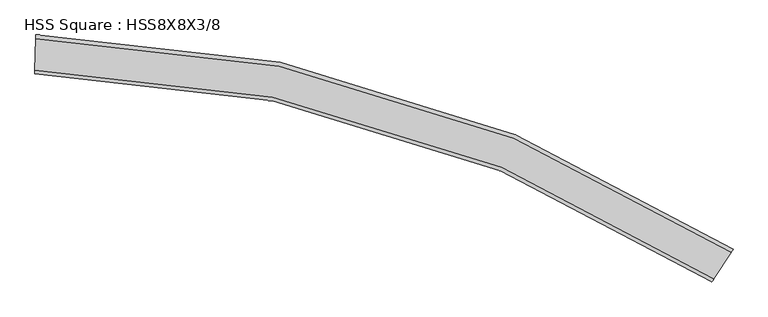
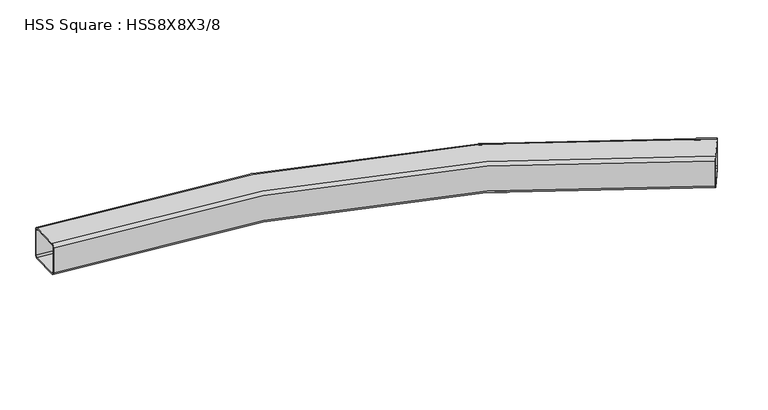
"""IFC4 building model written with IfcOpenShell, lengths in millimetres: beam geometry, HSS Square : HSS8X8X3/8."""

from ifc_helpers import new_model, si_unit, point, frame, origin, place, context, project, spatial, polyline, circle_curve, ellipse_curve, trimmed, source, transform, mapped, element, save
from ifc_brep_helpers import plane_surface, cylinder_surface, revolved_surface, advanced_brep


def hss_square_hss8x8x3_8_2c6f5ad9(model_context):
    return source(origin(), model_context, "Body", "AdvancedBrep", [
        advanced_brep(
        [(3770.5820038, -1017.4388055, 82.55), (3760.1899541, -1033.4046379, 101.6), (3670.1255241, -1171.7751855, 101.6), (3659.7334745, -1187.7410179, 82.55), (3659.7334745, -1187.7410179, -82.55), (3670.1255241, -1171.7751855, -101.6), (3760.1899541, -1033.4046379, -101.6), (3770.5820038, -1017.4388055, -82.55), (3670.1255241, -1171.7751855, 92.075), (3760.1899541, -1033.4046379, 92.075), (3765.385979, -1025.4217217, 82.55), (3765.385979, -1025.4217217, -82.55), (3760.1899541, -1033.4046379, -92.075), (3670.1255241, -1171.7751855, -92.075), (3664.9294993, -1179.7581017, -82.55), (3664.9294993, -1179.7581017, 82.55), (133.734971, 100.3061067, 82.55), (133.734971, 100.3061067, -82.55), (133.3663859, 81.2596728, -101.6), (130.1719814, -83.8094212, -101.6), (129.8033963, -102.8558551, -82.55), (129.8033963, -102.8558551, 82.55), (130.1719814, -83.8094212, 101.6), (133.3663859, 81.2596728, 101.6), (130.1719814, -83.8094212, 92.075), (129.9876888, -93.3326382, 82.55), (129.9876888, -93.3326382, -82.55), (130.1719814, -83.8094212, -92.075), (133.3663859, 81.2596728, -92.075), (133.5506784, 90.7828897, -82.55), (133.5506784, 90.7828897, 82.55), (133.3663859, 81.2596728, 92.075)],
        [
            (0, 1, circle_curve(frame((3760.1899541, -1033.4046379, 82.55), z_axis=(0.8381014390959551, -0.5455144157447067, 0.0), x_axis=(-0.5455144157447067, -0.8381014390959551, 0.0)), 19.05)),
            (1, 2),
            (2, 3, circle_curve(frame((3670.1255241, -1171.7751855, 82.55), z_axis=(0.8381014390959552, -0.5455144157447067, 0.0), x_axis=(-0.5455144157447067, -0.8381014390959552, 0.0)), 19.05)),
            (3, 4),
            (4, 5, circle_curve(frame((3670.1255241, -1171.7751855, -82.55), z_axis=(0.8381014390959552, -0.5455144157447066, 0.0), x_axis=(-0.5455144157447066, -0.8381014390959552, 0.0)), 19.05)),
            (5, 6),
            (6, 7, circle_curve(frame((3760.1899541, -1033.4046379, -82.55), z_axis=(0.8381014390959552, -0.5455144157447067, 0.0), x_axis=(-0.5455144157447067, -0.8381014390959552, 0.0)), 19.05)),
            (7, 0),
            (8, 9),
            (9, 10, circle_curve(frame((3760.1899541, -1033.4046379, 82.55), z_axis=(-0.8381014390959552, 0.5455144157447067, 0.0), x_axis=(-0.5455144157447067, -0.8381014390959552, 0.0)), 9.525)),
            (10, 11),
            (11, 12, circle_curve(frame((3760.1899541, -1033.4046379, -82.55), z_axis=(-0.8381014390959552, 0.5455144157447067, 0.0), x_axis=(-0.5455144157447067, -0.8381014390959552, 0.0)), 9.525)),
            (12, 13),
            (13, 14, circle_curve(frame((3670.1255241, -1171.7751855, -82.55), z_axis=(-0.8381014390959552, 0.5455144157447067, 0.0), x_axis=(-0.5455144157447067, -0.8381014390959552, 0.0)), 9.525)),
            (14, 15),
            (15, 8, circle_curve(frame((3670.1255241, -1171.7751855, 82.55), z_axis=(-0.8381014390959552, 0.5455144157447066, 0.0), x_axis=(-0.5455144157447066, -0.8381014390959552, 0.0)), 9.525)),
            (16, 17),
            (17, 18, circle_curve(frame((133.3663859, 81.2596728, -82.55), z_axis=(-0.9998128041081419, 0.019348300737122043, 0.0), x_axis=(-0.019348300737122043, -0.9998128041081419, 0.0)), 19.05)),
            (18, 19),
            (19, 20, circle_curve(frame((130.1719814, -83.8094212, -82.55), z_axis=(-0.9998128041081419, 0.019348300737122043, 0.0), x_axis=(-0.019348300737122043, -0.9998128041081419, 0.0)), 19.05)),
            (20, 21),
            (21, 22, circle_curve(frame((130.1719814, -83.8094212, 82.55), z_axis=(-0.9998128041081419, 0.01934830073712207, 0.0), x_axis=(-0.01934830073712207, -0.9998128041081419, 0.0)), 19.05)),
            (22, 23),
            (23, 16, circle_curve(frame((133.3663859, 81.2596728, 82.55), z_axis=(-0.9998128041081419, 0.019348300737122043, 0.0), x_axis=(-0.019348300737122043, -0.9998128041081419, 0.0)), 19.05)),
            (24, 25, circle_curve(frame((130.1719814, -83.8094212, 82.55), z_axis=(0.9998128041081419, -0.01934830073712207, 0.0), x_axis=(-0.01934830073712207, -0.9998128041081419, 0.0)), 9.525)),
            (25, 26),
            (26, 27, circle_curve(frame((130.1719814, -83.8094212, -82.55), z_axis=(0.9998128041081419, -0.0193483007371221, 0.0), x_axis=(-0.0193483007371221, -0.9998128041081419, 0.0)), 9.525)),
            (27, 28),
            (28, 29, circle_curve(frame((133.3663859, 81.2596728, -82.55), z_axis=(0.9998128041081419, -0.019348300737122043, 0.0), x_axis=(-0.019348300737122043, -0.9998128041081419, 0.0)), 9.525)),
            (29, 30),
            (30, 31, circle_curve(frame((133.3663859, 81.2596728, 82.55), z_axis=(0.9998128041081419, -0.0193483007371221, 0.0), x_axis=(-0.0193483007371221, -0.9998128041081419, 0.0)), 9.525)),
            (31, 24),
            (0, 16, circle_curve(frame((0.0, -6810.375, 82.55), z_axis=(0.0, 0.0, 1.0), x_axis=(-0.19044289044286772, 0.981698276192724, 0.0)), 6911.975)),
            (23, 1, circle_curve(frame((0.0, -6810.375, 101.6), z_axis=(0.0, 0.0, -1.0), x_axis=(-0.19044289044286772, 0.981698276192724, 0.0)), 6892.925)),
            (22, 2, circle_curve(frame((0.0, -6810.375, 101.6), z_axis=(0.0, 0.0, -1.0), x_axis=(-0.19044289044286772, 0.981698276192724, 0.0)), 6727.825)),
            (21, 3, circle_curve(frame((0.0, -6810.375, 82.55), z_axis=(0.0, 0.0, -1.0), x_axis=(-0.19044289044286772, 0.981698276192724, 0.0)), 6708.775)),
            (20, 4, circle_curve(frame((0.0, -6810.375, -82.55), z_axis=(0.0, 0.0, -1.0), x_axis=(-0.19044289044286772, 0.981698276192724, 0.0)), 6708.775)),
            (19, 5, circle_curve(frame((0.0, -6810.375, -101.6), z_axis=(0.0, 0.0, -1.0), x_axis=(-0.19044289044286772, 0.981698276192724, 0.0)), 6727.825)),
            (18, 6, circle_curve(frame((0.0, -6810.375, -101.6), z_axis=(0.0, 0.0, -1.0), x_axis=(-0.19044289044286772, 0.981698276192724, 0.0)), 6892.925)),
            (17, 7, circle_curve(frame((0.0, -6810.375, -82.55), z_axis=(0.0, 0.0, -1.0), x_axis=(-0.19044289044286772, 0.981698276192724, 0.0)), 6911.975)),
            (8, 24, circle_curve(frame((0.0, -6810.375, 92.075), z_axis=(0.0, 0.0, 1.0), x_axis=(-0.19044289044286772, 0.981698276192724, 0.0)), 6727.825)),
            (31, 9, circle_curve(frame((0.0, -6810.375, 92.075), z_axis=(0.0, 0.0, -1.0), x_axis=(-0.19044289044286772, 0.981698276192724, 0.0)), 6892.925)),
            (30, 10, circle_curve(frame((0.0, -6810.375, 82.55), z_axis=(0.0, 0.0, -1.0), x_axis=(-0.19044289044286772, 0.981698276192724, 0.0)), 6902.45)),
            (29, 11, circle_curve(frame((0.0, -6810.375, -82.55), z_axis=(0.0, 0.0, -1.0), x_axis=(-0.19044289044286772, 0.981698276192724, 0.0)), 6902.45)),
            (28, 12, circle_curve(frame((0.0, -6810.375, -92.075), z_axis=(0.0, 0.0, -1.0), x_axis=(-0.19044289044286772, 0.981698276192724, 0.0)), 6892.925)),
            (27, 13, circle_curve(frame((0.0, -6810.375, -92.075), z_axis=(0.0, 0.0, -1.0), x_axis=(-0.19044289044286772, 0.981698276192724, 0.0)), 6727.825)),
            (26, 14, circle_curve(frame((0.0, -6810.375, -82.55), z_axis=(0.0, 0.0, -1.0), x_axis=(-0.19044289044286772, 0.981698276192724, 0.0)), 6718.3)),
            (25, 15, circle_curve(frame((0.0, -6810.375, 82.55), z_axis=(0.0, 0.0, -1.0), x_axis=(-0.19044289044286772, 0.981698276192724, 0.0)), 6718.3)),
        ],
        [
            plane_surface(frame((3715.1577391, -1102.5899117, 0.0), z_axis=(0.8381014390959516, -0.5455144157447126, 0.0), x_axis=(0.0, 0.0, 1.0))),
            plane_surface(frame((131.7691836, -1.2748742, 0.0), z_axis=(-0.9998128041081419, 0.019348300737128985, 0.0), x_axis=(0.0, 0.0, 1.0))),
            revolved_surface(trimmed(ellipse_curve(frame((-1312.7085606, -43.6024096, 82.55), z_axis=(-0.9816982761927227, -0.19044289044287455, 0.0), x_axis=(0.19044289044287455, -0.9816982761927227, 0.0)), 19.05, 19.05), [point((-1312.7085606, -43.6024096, 101.6))], [point((-1316.3364977, -24.9010574, 82.55))], True, "CARTESIAN"), (0.0, -6810.375, 0.0), (0.0, 0.0, -1.0)),
            plane_surface(frame((0.0, -6810.375, 101.6), z_axis=(0.0, 0.0, 1.0), x_axis=(-0.19044289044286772, 0.981698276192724, 0.0))),
            revolved_surface(trimmed(ellipse_curve(frame((-1281.2664394, -205.680795, 82.55), z_axis=(-0.9816982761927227, -0.19044289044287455, 0.0), x_axis=(0.19044289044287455, -0.9816982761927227, 0.0)), 19.05, 19.05), [point((-1277.6385023, -224.3821471, 82.55))], [point((-1281.2664394, -205.680795, 101.6))], True, "CARTESIAN"), (0.0, -6810.375, 0.0), (0.0, 0.0, -1.0)),
            revolved_surface(polyline([(-1277.6385023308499, -224.38214713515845, -82.55), (-1277.6385023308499, -224.38214713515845, 82.55)]), (0.0, -6810.375, 0.0), (0.0, 0.0, -1.0)),
            revolved_surface(trimmed(ellipse_curve(frame((-1281.2664394, -205.680795, -82.55), z_axis=(-0.9816982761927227, -0.19044289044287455, 0.0), x_axis=(0.19044289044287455, -0.9816982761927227, 0.0)), 19.05, 19.05), [point((-1281.2664394, -205.680795, -101.6))], [point((-1277.6385023, -224.3821471, -82.55))], True, "CARTESIAN"), (0.0, -6810.375, 0.0), (0.0, 0.0, -1.0)),
            plane_surface(frame((0.0, -6810.375, -101.6), z_axis=(0.0, 0.0, -1.0), x_axis=(-0.19044289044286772, 0.981698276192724, 0.0))),
            revolved_surface(trimmed(ellipse_curve(frame((-1312.7085606, -43.6024096, -82.55), z_axis=(-0.9816982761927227, -0.19044289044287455, 0.0), x_axis=(0.19044289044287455, -0.9816982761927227, 0.0)), 19.05, 19.05), [point((-1316.3364977, -24.9010574, -82.55))], [point((-1312.7085606, -43.6024096, -101.6))], True, "CARTESIAN"), (0.0, -6810.375, 0.0), (0.0, 0.0, -1.0)),
            cylinder_surface(frame((0.0, -6810.375, 0.0), z_axis=(0.0, 0.0, -1.0), x_axis=(-0.19044289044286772, 0.981698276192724, 0.0)), 6911.975),
            plane_surface(frame((0.0, -6810.375, 92.075), z_axis=(0.0, 0.0, -1.0), x_axis=(-0.19044289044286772, 0.981698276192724, 0.0))),
            revolved_surface(trimmed(ellipse_curve(frame((-1312.7085606, -43.6024096, 82.55), z_axis=(0.9816982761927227, 0.19044289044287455, 0.0), x_axis=(0.19044289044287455, -0.9816982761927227, 0.0)), 9.525, 9.525), [point((-1314.5225291, -34.2517335, 82.55))], [point((-1312.7085606, -43.6024096, 92.075))], True, "CARTESIAN"), (0.0, -6810.375, 0.0), (0.0, 0.0, -1.0)),
            revolved_surface(polyline([(-1314.5225291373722, -34.25173349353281, -82.55), (-1314.5225291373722, -34.25173349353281, 82.55)]), (0.0, -6810.375, 0.0), (0.0, 0.0, -1.0)),
            revolved_surface(trimmed(ellipse_curve(frame((-1312.7085606, -43.6024096, -82.55), z_axis=(0.9816982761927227, 0.19044289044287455, 0.0), x_axis=(0.19044289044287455, -0.9816982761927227, 0.0)), 9.525, 9.525), [point((-1312.7085606, -43.6024096, -92.075))], [point((-1314.5225291, -34.2517335, -82.55))], True, "CARTESIAN"), (0.0, -6810.375, 0.0), (0.0, 0.0, -1.0)),
            plane_surface(frame((0.0, -6810.375, -92.075), z_axis=(0.0, 0.0, 1.0), x_axis=(-0.19044289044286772, 0.981698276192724, 0.0))),
            revolved_surface(trimmed(ellipse_curve(frame((-1281.2664394, -205.680795, -82.55), z_axis=(0.9816982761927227, 0.19044289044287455, 0.0), x_axis=(0.19044289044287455, -0.9816982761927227, 0.0)), 9.525, 9.525), [point((-1279.4524709, -215.0314711, -82.55))], [point((-1281.2664394, -205.680795, -92.075))], True, "CARTESIAN"), (0.0, -6810.375, 0.0), (0.0, 0.0, -1.0)),
            cylinder_surface(frame((0.0, -6810.375, 0.0), z_axis=(0.0, 0.0, -1.0), x_axis=(-0.19044289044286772, 0.981698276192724, 0.0)), 6718.3),
            revolved_surface(trimmed(ellipse_curve(frame((-1281.2664394, -205.680795, 82.55), z_axis=(0.9816982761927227, 0.19044289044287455, 0.0), x_axis=(0.19044289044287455, -0.9816982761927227, 0.0)), 9.525, 9.525), [point((-1281.2664394, -205.680795, 92.075))], [point((-1279.4524709, -215.0314711, 82.55))], True, "CARTESIAN"), (0.0, -6810.375, 0.0), (0.0, 0.0, -1.0)),
        ],
        [
            (0, [[1, 2, 3, 4, 5, 6, 7, 8], [9, 10, 11, 12, 13, 14, 15, 16]]),
            (1, [[17, 18, 19, 20, 21, 22, 23, 24], [25, 26, 27, 28, 29, 30, 31, 32]]),
            (2, [[-1, 33, -24, 34]]),
            (3, [[-2, -34, -23, 35]]),
            (4, [[-3, -35, -22, 36]]),
            (5, [[-4, -36, -21, 37]]),
            (6, [[-5, -37, -20, 38]]),
            (7, [[-6, -38, -19, 39]]),
            (8, [[-7, -39, -18, 40]]),
            (9, [[-8, -40, -17, -33]]),
            (10, [[-9, 41, -32, 42]]),
            (11, [[-10, -42, -31, 43]]),
            (12, [[-11, -43, -30, 44]]),
            (13, [[-12, -44, -29, 45]]),
            (14, [[-13, -45, -28, 46]]),
            (15, [[-14, -46, -27, 47]]),
            (16, [[-15, -47, -26, 48]]),
            (17, [[-16, -48, -25, -41]]),
        ],
    ),
    ])


if __name__ == "__main__":
    model = new_model("IFC4")
    model_context = context("Model", 3, world=origin())
    ifc_project = project(units=[si_unit("LENGTHUNIT", "METRE", prefix="MILLI")], contexts=[model_context])
    site = spatial("IfcSite", under=ifc_project)
    building = spatial("IfcBuilding", under=site)
    placement = place(None, origin())
    hss_square_hss8x8x3_8_shape = hss_square_hss8x8x3_8_2c6f5ad9(model_context)
    element("IfcBeam", 1, ObjectType="HSS Square : HSS8X8X3/8", at=placement, inside=building, context=model_context, shape_type="MappedRepresentation", body=[
        mapped(hss_square_hss8x8x3_8_shape, transform((0.0, 0.0, 0.0), x_axis=(1.0, 0.0, 0.0), y_axis=(0.0, 1.0, 0.0), z_axis=(0.0, 0.0, 1.0))),
    ])
    save(model, "model.ifc")
